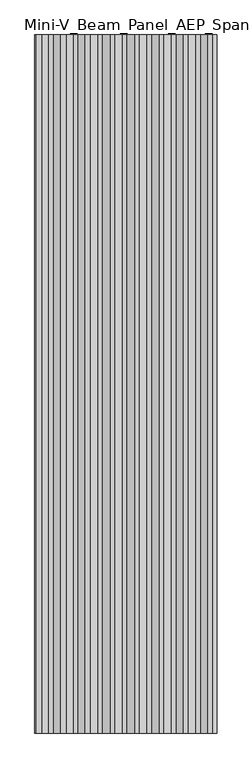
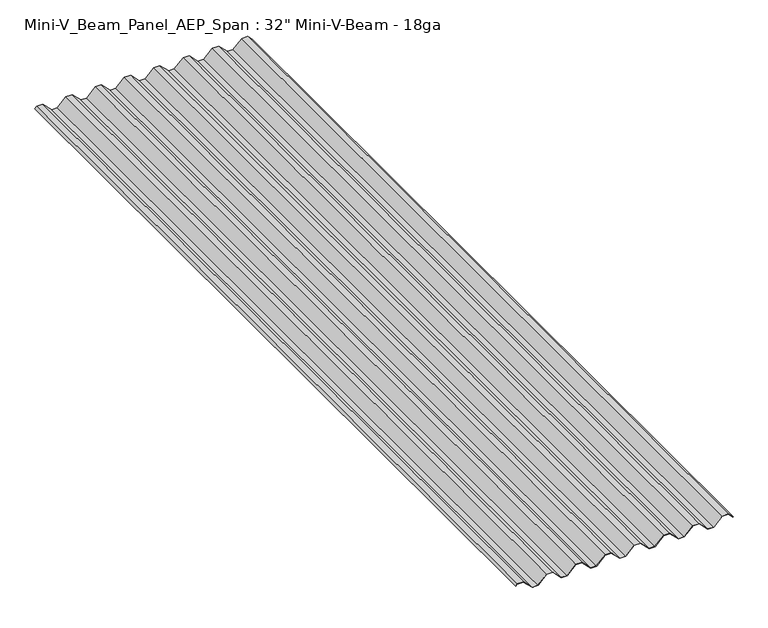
"""IFC4 building model written with IfcOpenShell, lengths in millimetres: proxy geometry."""

from ifc_helpers import new_model, si_unit, frame, origin, place, context, project, spatial, polyline, outline, extrude, source, transform, mapped, element, save


def proxy_a3d225fe(model_context):
    return source(origin(), model_context, "Body", "SweptSolid", [
        extrude(outline(polyline([(34.29, 418.25799), (16.1068911, 436.4589966), (16.9312787, 437.2833842), (35.45586, 418.7407537), (35.45586, 394.054015), (1.16586, 359.764015), (1.16586, 336.917345), (35.45586, 302.627345), (35.45586, 277.940455), (1.16586, 243.650455), (1.16586, 220.803785), (35.45586, 186.513785), (35.45586, 161.826895), (1.16586, 127.536895), (1.16586, 104.690225), (35.45586, 70.400225), (35.45586, 45.713335), (1.16586, 11.423335), (1.16586, -11.423335), (35.45586, -45.713335), (35.45586, -70.400225), (1.16586, -104.690225), (1.16586, -127.536895), (35.45586, -161.826895), (35.45586, -186.513785), (1.16586, -220.803785), (1.16586, -243.650455), (35.45586, -277.940455), (35.45586, -302.627345), (1.16586, -336.917345), (1.16586, -359.764015), (35.45586, -394.054015), (35.45586, -418.740905), (28.5651826, -425.6315824), (27.7407951, -424.8071949), (34.29, -418.25799), (34.29, -394.53693), (0.0, -360.24693), (0.0, -336.43443), (34.29, -302.14443), (34.29, -278.42337), (0.0, -244.13337), (0.0, -220.32087), (34.29, -186.03087), (34.29, -162.30981), (0.0, -128.01981), (0.0, -104.20731), (34.29, -69.91731), (34.29, -46.19625), (0.0, -11.90625), (0.0, 11.90625), (34.29, 46.19625), (34.29, 69.91731), (0.0, 104.20731), (0.0, 128.01981), (34.29, 162.30981), (34.29, 186.03087), (0.0, 220.32087), (0.0, 244.13337), (34.29, 278.42337), (34.29, 302.14443), (0.0, 336.43443), (0.0, 360.24693), (34.29, 394.53693), (34.29, 418.25799)])), frame((0.0, -3302.0, 0.0), z_axis=(0.0, 1.0, 0.0), x_axis=(0.0, 0.0, 1.0)), (0.0, 0.0, 1.0), 3302.0),
    ])


if __name__ == "__main__":
    model = new_model("IFC4")
    model_context = context("Model", 3, world=origin())
    ifc_project = project(units=[si_unit("LENGTHUNIT", "METRE", prefix="MILLI")], contexts=[model_context])
    site = spatial("IfcSite", under=ifc_project)
    building = spatial("IfcBuilding", under=site)
    placement = place(None, origin())
    proxy_shape = proxy_a3d225fe(model_context)
    element("IfcBuildingElementProxy", 1, Name="Mini-V_Beam_Panel_AEP_Span : 32\" Mini-V-Beam - 18ga", ObjectType="Mini-V_Beam_Panel_AEP_Span : 32\" Mini-V-Beam - 18ga", at=placement, inside=building, context=model_context, shape_type="MappedRepresentation", body=[
        mapped(proxy_shape, transform((0.0, 0.0, 0.0), x_axis=(1.0, 0.0, 0.0), y_axis=(0.0, 1.0, 0.0), z_axis=(0.0, 0.0, 1.0))),
    ])
    save(model, "model.ifc")
